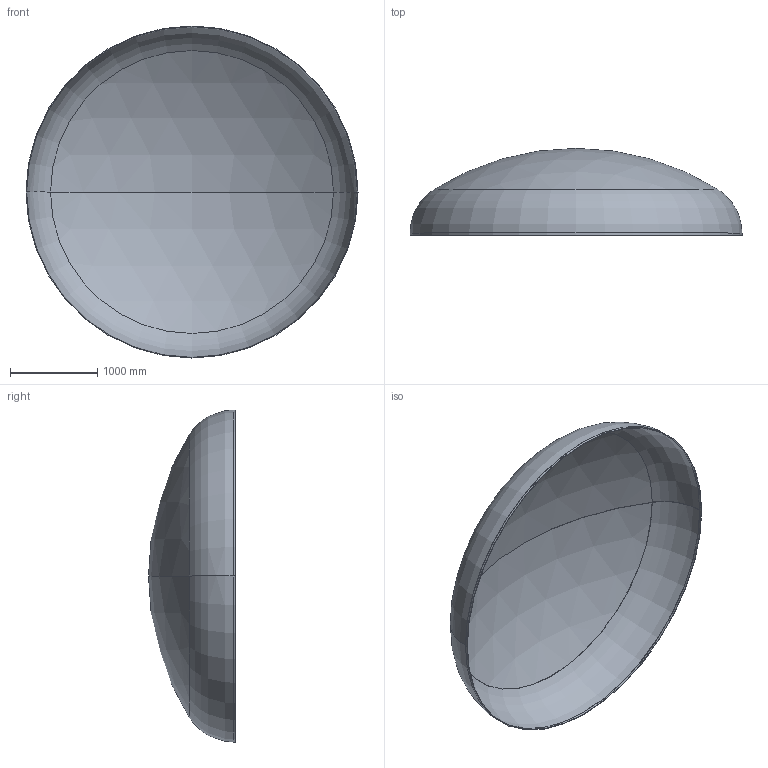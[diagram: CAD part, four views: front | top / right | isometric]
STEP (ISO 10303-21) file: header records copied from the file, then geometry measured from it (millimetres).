
FILE_DESCRIPTION (( 'STEP AP203' ), '1' );
FILE_NAME ('DIN 28013 Korbbogenform_-_Boden DIN 28013 - 3800 x 25 - I - s=7.step', '2016-07-01T20:59:27', ( '' ), ( '' ), 'SwSTEP 2.0', 'SolidWorks 2013', '' );
FILE_SCHEMA (( 'CONFIG_CONTROL_DESIGN' ));
Length unit declared in the file: millimetre
Products named in the file (1): DIN 28013 Korbbogenform_-_Boden DIN 28013 - 3800 x 25 - I - s=7
Bounding box: 3800 x 994.46 x 3800 mm (x, y, z)
Volume: 111772324.3 mm3; surface area: 32018451.6 mm2
Topology: 1 solids, 1 shells, 13 faces, 24 edges, 14 vertices
Faces by surface type: torus 4, cylinder 4, sphere 4, plane 1
Entity records: 407 total; most frequent: DIRECTION 72, CARTESIAN_POINT 52, ORIENTED_EDGE 48, AXIS2_PLACEMENT_3D 34, EDGE_CURVE 24, CIRCLE 20, EDGE_LOOP 14, VERTEX_POINT 14
